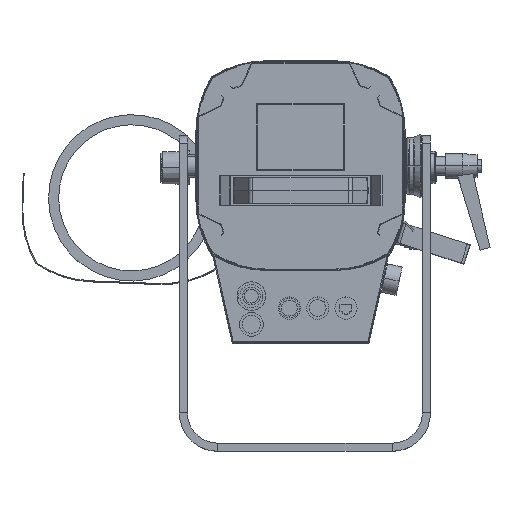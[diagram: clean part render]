
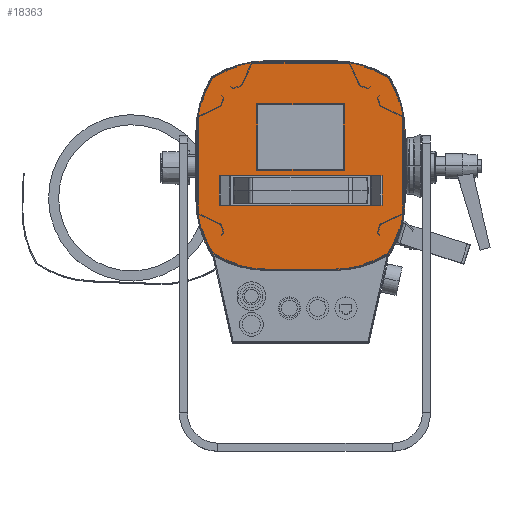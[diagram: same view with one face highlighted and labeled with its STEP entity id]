
A CAD part, top view. The second image highlights one B-rep face of the part: STEP entity #18363.
In plain terms, the highlighted planar face has unit normal (0, 0, 1).
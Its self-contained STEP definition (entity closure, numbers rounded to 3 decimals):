
#868 = CARTESIAN_POINT ( 'NONE',  ( -88.019, -88.019, 0. ) ) ;
#982 = VECTOR ( 'NONE', #2930, 1000. ) ;
#1056 = CARTESIAN_POINT ( 'NONE',  ( 42.5, 60., 0. ) ) ;
#1499 = VERTEX_POINT ( 'NONE', #23083 ) ;
#1555 = DIRECTION ( 'NONE',  ( 0., 0., -1. ) ) ;
#1947 = AXIS2_PLACEMENT_3D ( 'NONE', #26483, #29302, #18502 ) ;
#1954 = ORIENTED_EDGE ( 'NONE', *, *, #29813, .F. ) ;
#2315 = VERTEX_POINT ( 'NONE', #6877 ) ;
#2507 = EDGE_CURVE ( 'NONE', #26776, #16813, #9227, .T. ) ;
#2667 = CARTESIAN_POINT ( 'NONE',  ( 0., 33., 0. ) ) ;
#2900 = EDGE_CURVE ( 'NONE', #23823, #17860, #2923, .T. ) ;
#2923 = CIRCLE ( 'NONE', #18627, 103.8 ) ;
#2930 = DIRECTION ( 'NONE',  ( 0., -1., 0. ) ) ;
#3050 = DIRECTION ( 'NONE',  ( -1., 0., 0. ) ) ;
#3221 = CARTESIAN_POINT ( 'NONE',  ( 2.5, 60., 0. ) ) ;
#3265 = CARTESIAN_POINT ( 'NONE',  ( -42.5, 14., 0. ) ) ;
#3285 = LINE ( 'NONE', #21108, #31635 ) ;
#3576 = CARTESIAN_POINT ( 'NONE',  ( -103.8, -33., 0. ) ) ;
#3768 = DIRECTION ( 'NONE',  ( 1., 0., 0. ) ) ;
#3970 = EDGE_CURVE ( 'NONE', #17860, #1499, #12431, .T. ) ;
#4295 = CARTESIAN_POINT ( 'NONE',  ( -103.8, -33., 0. ) ) ;
#4444 = DIRECTION ( 'NONE',  ( 0., 0., -1. ) ) ;
#4588 = DIRECTION ( 'NONE',  ( 1., 0., 0. ) ) ;
#4657 = VECTOR ( 'NONE', #4588, 1000. ) ;
#4942 = CARTESIAN_POINT ( 'NONE',  ( -42.5, -4., 0. ) ) ;
#5031 = DIRECTION ( 'NONE',  ( -1., 0., 0. ) ) ;
#5162 = EDGE_CURVE ( 'NONE', #29057, #23008, #18517, .T. ) ;
#5796 = EDGE_LOOP ( 'NONE', ( #21430, #9402, #8098, #12961, #29167, #13957, #9035, #9639, #20583, #30376, #16602, #24683 ) ) ;
#5907 = EDGE_CURVE ( 'NONE', #6675, #28239, #7122, .T. ) ;
#6087 = ORIENTED_EDGE ( 'NONE', *, *, #18543, .F. ) ;
#6109 = DIRECTION ( 'NONE',  ( 0., 1., 0. ) ) ;
#6346 = CARTESIAN_POINT ( 'NONE',  ( 33., 103.8, 0. ) ) ;
#6675 = VERTEX_POINT ( 'NONE', #868 ) ;
#6877 = CARTESIAN_POINT ( 'NONE',  ( -33., -103.8, 0. ) ) ;
#7122 = CIRCLE ( 'NONE', #30341, 103.8 ) ;
#7162 = AXIS2_PLACEMENT_3D ( 'NONE', #17339, #4444, #32761 ) ;
#7431 = CARTESIAN_POINT ( 'NONE',  ( -103.8, 33., 0. ) ) ;
#7664 = VERTEX_POINT ( 'NONE', #13333 ) ;
#7666 = CARTESIAN_POINT ( 'NONE',  ( -33., 103.8, 0. ) ) ;
#8000 = EDGE_LOOP ( 'NONE', ( #15137, #1954, #31539, #6087 ) ) ;
#8098 = ORIENTED_EDGE ( 'NONE', *, *, #2900, .F. ) ;
#8227 = CARTESIAN_POINT ( 'NONE',  ( 0., -33., 0. ) ) ;
#8554 = DIRECTION ( 'NONE',  ( 0., 0., -1. ) ) ;
#8679 = PLANE ( 'NONE',  #14935 ) ;
#9035 = ORIENTED_EDGE ( 'NONE', *, *, #12505, .F. ) ;
#9227 = LINE ( 'NONE', #6346, #14913 ) ;
#9402 = ORIENTED_EDGE ( 'NONE', *, *, #3970, .F. ) ;
#9639 = ORIENTED_EDGE ( 'NONE', *, *, #14838, .F. ) ;
#9699 = CARTESIAN_POINT ( 'NONE',  ( -33., 0., 0. ) ) ;
#10439 = CARTESIAN_POINT ( 'NONE',  ( -42.5, 60., 0. ) ) ;
#10465 = CARTESIAN_POINT ( 'NONE',  ( 103.8, 33., 0. ) ) ;
#10625 = EDGE_CURVE ( 'NONE', #21755, #26776, #11456, .T. ) ;
#10996 = CARTESIAN_POINT ( 'NONE',  ( 33., 103.8, 0. ) ) ;
#11212 = LINE ( 'NONE', #3576, #16562 ) ;
#11273 = DIRECTION ( 'NONE',  ( 1., 0., 0. ) ) ;
#11456 = CIRCLE ( 'NONE', #24454, 103.8 ) ;
#12431 = LINE ( 'NONE', #33096, #17113 ) ;
#12505 = EDGE_CURVE ( 'NONE', #28662, #21755, #17002, .T. ) ;
#12767 = DIRECTION ( 'NONE',  ( 0., -1., 0. ) ) ;
#12774 = CIRCLE ( 'NONE', #1947, 103.8 ) ;
#12880 = EDGE_CURVE ( 'NONE', #16313, #26904, #3285, .T. ) ;
#12961 = ORIENTED_EDGE ( 'NONE', *, *, #14841, .F. ) ;
#13008 = DIRECTION ( 'NONE',  ( -1., 0., 0. ) ) ;
#13174 = VERTEX_POINT ( 'NONE', #19126 ) ;
#13333 = CARTESIAN_POINT ( 'NONE',  ( 88.019, -88.019, 0. ) ) ;
#13339 = CARTESIAN_POINT ( 'NONE',  ( 0., -33., 0. ) ) ;
#13512 = DIRECTION ( 'NONE',  ( 0., 0., -1. ) ) ;
#13957 = ORIENTED_EDGE ( 'NONE', *, *, #10625, .F. ) ;
#14838 = EDGE_CURVE ( 'NONE', #28239, #28662, #11212, .T. ) ;
#14841 = EDGE_CURVE ( 'NONE', #16813, #23823, #12774, .T. ) ;
#14913 = VECTOR ( 'NONE', #21463, 1000. ) ;
#14935 = AXIS2_PLACEMENT_3D ( 'NONE', #32046, #1555, #18855 ) ;
#15137 = ORIENTED_EDGE ( 'NONE', *, *, #5162, .F. ) ;
#15545 = DIRECTION ( 'NONE',  ( 0., 0., -1. ) ) ;
#15580 = DIRECTION ( 'NONE',  ( 1., 0., 0. ) ) ;
#15777 = EDGE_CURVE ( 'NONE', #2315, #6675, #33159, .T. ) ;
#16002 = CARTESIAN_POINT ( 'NONE',  ( 88.019, 88.019, 0. ) ) ;
#16062 = AXIS2_PLACEMENT_3D ( 'NONE', #18284, #23236, #15580 ) ;
#16313 = VERTEX_POINT ( 'NONE', #20177 ) ;
#16476 = FACE_BOUND ( 'NONE', #8000, .T. ) ;
#16562 = VECTOR ( 'NONE', #6109, 1000. ) ;
#16602 = ORIENTED_EDGE ( 'NONE', *, *, #29695, .F. ) ;
#16813 = VERTEX_POINT ( 'NONE', #10996 ) ;
#17002 = CIRCLE ( 'NONE', #24062, 103.8 ) ;
#17113 = VECTOR ( 'NONE', #12767, 1000. ) ;
#17339 = CARTESIAN_POINT ( 'NONE',  ( -33., 0., 0. ) ) ;
#17624 = LINE ( 'NONE', #33383, #30256 ) ;
#17860 = VERTEX_POINT ( 'NONE', #10465 ) ;
#18284 = CARTESIAN_POINT ( 'NONE',  ( 33., 0., 0. ) ) ;
#18363 = ADVANCED_FACE ( 'NONE', ( #16476, #19526 ), #8679, .F. ) ;
#18502 = DIRECTION ( 'NONE',  ( -1., 0., 0. ) ) ;
#18517 = LINE ( 'NONE', #3265, #982 ) ;
#18543 = EDGE_CURVE ( 'NONE', #23008, #16313, #22419, .T. ) ;
#18627 = AXIS2_PLACEMENT_3D ( 'NONE', #21754, #21425, #3768 ) ;
#18855 = DIRECTION ( 'NONE',  ( -1., 0., 0. ) ) ;
#18935 = VECTOR ( 'NONE', #3050, 1000. ) ;
#19126 = CARTESIAN_POINT ( 'NONE',  ( 33., -103.8, 0. ) ) ;
#19212 = DIRECTION ( 'NONE',  ( 0., 1., 0. ) ) ;
#19526 = FACE_OUTER_BOUND ( 'NONE', #5796, .T. ) ;
#20177 = CARTESIAN_POINT ( 'NONE',  ( 42.5, -4., 0. ) ) ;
#20292 = CIRCLE ( 'NONE', #25724, 103.8 ) ;
#20583 = ORIENTED_EDGE ( 'NONE', *, *, #5907, .F. ) ;
#20949 = CIRCLE ( 'NONE', #16062, 103.8 ) ;
#21108 = CARTESIAN_POINT ( 'NONE',  ( 42.5, 60., 0. ) ) ;
#21425 = DIRECTION ( 'NONE',  ( 0., 0., -1. ) ) ;
#21430 = ORIENTED_EDGE ( 'NONE', *, *, #33390, .F. ) ;
#21463 = DIRECTION ( 'NONE',  ( 1., 0., 0. ) ) ;
#21754 = CARTESIAN_POINT ( 'NONE',  ( 0., 33., 0. ) ) ;
#21755 = VERTEX_POINT ( 'NONE', #26218 ) ;
#22253 = CARTESIAN_POINT ( 'NONE',  ( -42.5, -4., 0. ) ) ;
#22419 = LINE ( 'NONE', #22253, #4657 ) ;
#22765 = DIRECTION ( 'NONE',  ( 1., 0., 0. ) ) ;
#23008 = VERTEX_POINT ( 'NONE', #4942 ) ;
#23083 = CARTESIAN_POINT ( 'NONE',  ( 103.8, -33., 0. ) ) ;
#23236 = DIRECTION ( 'NONE',  ( 0., 0., -1. ) ) ;
#23823 = VERTEX_POINT ( 'NONE', #16002 ) ;
#24062 = AXIS2_PLACEMENT_3D ( 'NONE', #2667, #15545, #5031 ) ;
#24379 = EDGE_CURVE ( 'NONE', #7664, #13174, #20949, .T. ) ;
#24454 = AXIS2_PLACEMENT_3D ( 'NONE', #9699, #25468, #22765 ) ;
#24683 = ORIENTED_EDGE ( 'NONE', *, *, #24379, .F. ) ;
#25468 = DIRECTION ( 'NONE',  ( 0., 0., -1. ) ) ;
#25724 = AXIS2_PLACEMENT_3D ( 'NONE', #8227, #13512, #13008 ) ;
#26218 = CARTESIAN_POINT ( 'NONE',  ( -88.019, 88.019, 0. ) ) ;
#26449 = LINE ( 'NONE', #3221, #18935 ) ;
#26483 = CARTESIAN_POINT ( 'NONE',  ( 33., 0., 0. ) ) ;
#26776 = VERTEX_POINT ( 'NONE', #7666 ) ;
#26904 = VERTEX_POINT ( 'NONE', #1056 ) ;
#28239 = VERTEX_POINT ( 'NONE', #4295 ) ;
#28454 = DIRECTION ( 'NONE',  ( -1., 0., 0. ) ) ;
#28662 = VERTEX_POINT ( 'NONE', #7431 ) ;
#29057 = VERTEX_POINT ( 'NONE', #10439 ) ;
#29167 = ORIENTED_EDGE ( 'NONE', *, *, #2507, .F. ) ;
#29302 = DIRECTION ( 'NONE',  ( 0., 0., -1. ) ) ;
#29695 = EDGE_CURVE ( 'NONE', #13174, #2315, #17624, .T. ) ;
#29813 = EDGE_CURVE ( 'NONE', #26904, #29057, #26449, .T. ) ;
#30256 = VECTOR ( 'NONE', #28454, 1000. ) ;
#30341 = AXIS2_PLACEMENT_3D ( 'NONE', #13339, #8554, #11273 ) ;
#30376 = ORIENTED_EDGE ( 'NONE', *, *, #15777, .F. ) ;
#31539 = ORIENTED_EDGE ( 'NONE', *, *, #12880, .F. ) ;
#31635 = VECTOR ( 'NONE', #19212, 1000. ) ;
#32046 = CARTESIAN_POINT ( 'NONE',  ( 0., -33., 0. ) ) ;
#32761 = DIRECTION ( 'NONE',  ( -1., 0., 0. ) ) ;
#33096 = CARTESIAN_POINT ( 'NONE',  ( 103.8, -33., 0. ) ) ;
#33159 = CIRCLE ( 'NONE', #7162, 103.8 ) ;
#33383 = CARTESIAN_POINT ( 'NONE',  ( 33., -103.8, 0. ) ) ;
#33390 = EDGE_CURVE ( 'NONE', #1499, #7664, #20292, .T. ) ;
